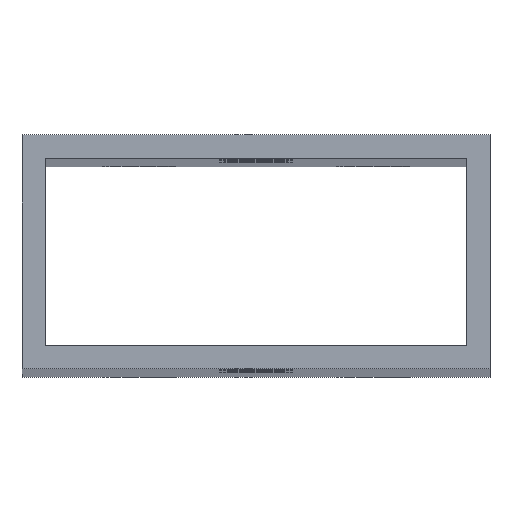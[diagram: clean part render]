
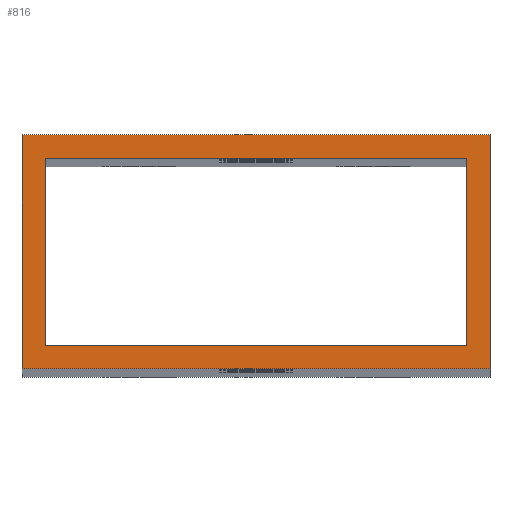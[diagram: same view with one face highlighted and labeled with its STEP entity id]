
A CAD part, top view. The second image highlights one B-rep face of the part: STEP entity #816.
In plain terms, the highlighted planar face has unit normal (0, 0, 1).
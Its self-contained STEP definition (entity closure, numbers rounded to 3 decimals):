
#4 = LINE ( 'NONE', #162, #1828 ) ;
#21 = VECTOR ( 'NONE', #206, 1000. ) ;
#23 = PLANE ( 'NONE',  #1566 ) ;
#117 = DIRECTION ( 'NONE',  ( 0., -1., 0. ) ) ;
#146 = VECTOR ( 'NONE', #1359, 1000. ) ;
#154 = CARTESIAN_POINT ( 'NONE',  ( 0., 0., 210. ) ) ;
#162 = CARTESIAN_POINT ( 'NONE',  ( 0., 0., 210. ) ) ;
#196 = VERTEX_POINT ( 'NONE', #1518 ) ;
#206 = DIRECTION ( 'NONE',  ( 1., 0., 0. ) ) ;
#227 = EDGE_CURVE ( 'NONE', #567, #948, #1196, .T. ) ;
#238 = DIRECTION ( 'NONE',  ( 0., 1., 0. ) ) ;
#241 = EDGE_CURVE ( 'NONE', #769, #861, #271, .T. ) ;
#246 = VECTOR ( 'NONE', #690, 1000. ) ;
#257 = ORIENTED_EDGE ( 'NONE', *, *, #815, .T. ) ;
#271 = LINE ( 'NONE', #1507, #146 ) ;
#326 = ORIENTED_EDGE ( 'NONE', *, *, #241, .F. ) ;
#351 = VERTEX_POINT ( 'NONE', #1288 ) ;
#391 = CARTESIAN_POINT ( 'NONE',  ( 0., 10., 210. ) ) ;
#447 = CARTESIAN_POINT ( 'NONE',  ( 20., 10., 210. ) ) ;
#472 = ORIENTED_EDGE ( 'NONE', *, *, #919, .F. ) ;
#528 = CARTESIAN_POINT ( 'NONE',  ( 1., 1., 210. ) ) ;
#543 = CARTESIAN_POINT ( 'NONE',  ( 20., 0., 210. ) ) ;
#562 = DIRECTION ( 'NONE',  ( 1., 0., 0. ) ) ;
#567 = VERTEX_POINT ( 'NONE', #447 ) ;
#619 = DIRECTION ( 'NONE',  ( 0., 0., -1. ) ) ;
#645 = EDGE_CURVE ( 'NONE', #351, #1386, #1345, .T. ) ;
#667 = VECTOR ( 'NONE', #238, 1000. ) ;
#690 = DIRECTION ( 'NONE',  ( 0., 1., 0. ) ) ;
#769 = VERTEX_POINT ( 'NONE', #1108 ) ;
#815 = EDGE_CURVE ( 'NONE', #948, #351, #4, .T. ) ;
#816 = ADVANCED_FACE ( 'NONE', ( #961, #932 ), #23, .F. ) ;
#861 = VERTEX_POINT ( 'NONE', #1122 ) ;
#865 = ORIENTED_EDGE ( 'NONE', *, *, #1955, .F. ) ;
#870 = CARTESIAN_POINT ( 'NONE',  ( 20., 0., 210. ) ) ;
#919 = EDGE_CURVE ( 'NONE', #1243, #196, #1285, .T. ) ;
#932 = FACE_BOUND ( 'NONE', #1675, .T. ) ;
#948 = VERTEX_POINT ( 'NONE', #391 ) ;
#961 = FACE_OUTER_BOUND ( 'NONE', #1739, .T. ) ;
#1026 = CARTESIAN_POINT ( 'NONE',  ( 1., 1., 210. ) ) ;
#1108 = CARTESIAN_POINT ( 'NONE',  ( 19., 9., 210. ) ) ;
#1122 = CARTESIAN_POINT ( 'NONE',  ( 1., 9., 210. ) ) ;
#1196 = LINE ( 'NONE', #1369, #1591 ) ;
#1219 = VECTOR ( 'NONE', #117, 1000. ) ;
#1243 = VERTEX_POINT ( 'NONE', #1705 ) ;
#1255 = DIRECTION ( 'NONE',  ( -1., 0., 0. ) ) ;
#1285 = LINE ( 'NONE', #528, #21 ) ;
#1288 = CARTESIAN_POINT ( 'NONE',  ( 0., 0., 210. ) ) ;
#1322 = CARTESIAN_POINT ( 'NONE',  ( 19., 1., 210. ) ) ;
#1345 = LINE ( 'NONE', #154, #1624 ) ;
#1359 = DIRECTION ( 'NONE',  ( -1., 0., 0. ) ) ;
#1368 = ORIENTED_EDGE ( 'NONE', *, *, #645, .T. ) ;
#1369 = CARTESIAN_POINT ( 'NONE',  ( 0., 10., 210. ) ) ;
#1386 = VERTEX_POINT ( 'NONE', #870 ) ;
#1401 = DIRECTION ( 'NONE',  ( 0., -1., 0. ) ) ;
#1403 = ORIENTED_EDGE ( 'NONE', *, *, #1716, .T. ) ;
#1412 = EDGE_CURVE ( 'NONE', #861, #1243, #1980, .T. ) ;
#1459 = LINE ( 'NONE', #543, #667 ) ;
#1507 = CARTESIAN_POINT ( 'NONE',  ( 1., 9., 210. ) ) ;
#1518 = CARTESIAN_POINT ( 'NONE',  ( 19., 1., 210. ) ) ;
#1566 = AXIS2_PLACEMENT_3D ( 'NONE', #1576, #619, #1255 ) ;
#1576 = CARTESIAN_POINT ( 'NONE',  ( 0., 0., 210. ) ) ;
#1591 = VECTOR ( 'NONE', #1988, 1000. ) ;
#1624 = VECTOR ( 'NONE', #562, 1000. ) ;
#1675 = EDGE_LOOP ( 'NONE', ( #472, #1979, #326, #865 ) ) ;
#1705 = CARTESIAN_POINT ( 'NONE',  ( 1., 1., 210. ) ) ;
#1716 = EDGE_CURVE ( 'NONE', #1386, #567, #1459, .T. ) ;
#1739 = EDGE_LOOP ( 'NONE', ( #257, #1368, #1403, #1945 ) ) ;
#1794 = LINE ( 'NONE', #1322, #246 ) ;
#1828 = VECTOR ( 'NONE', #1401, 1000. ) ;
#1945 = ORIENTED_EDGE ( 'NONE', *, *, #227, .T. ) ;
#1955 = EDGE_CURVE ( 'NONE', #196, #769, #1794, .T. ) ;
#1979 = ORIENTED_EDGE ( 'NONE', *, *, #1412, .F. ) ;
#1980 = LINE ( 'NONE', #1026, #1219 ) ;
#1988 = DIRECTION ( 'NONE',  ( -1., 0., 0. ) ) ;
